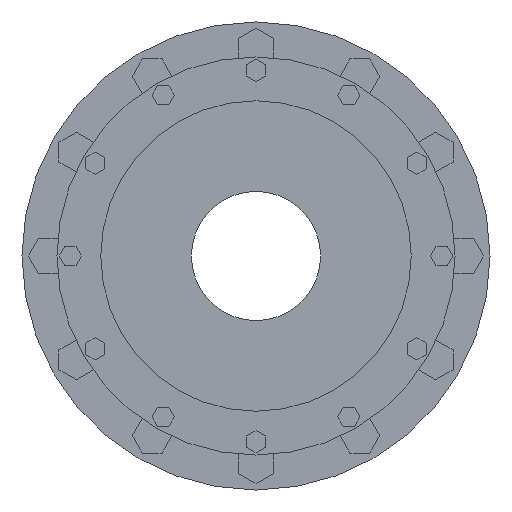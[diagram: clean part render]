
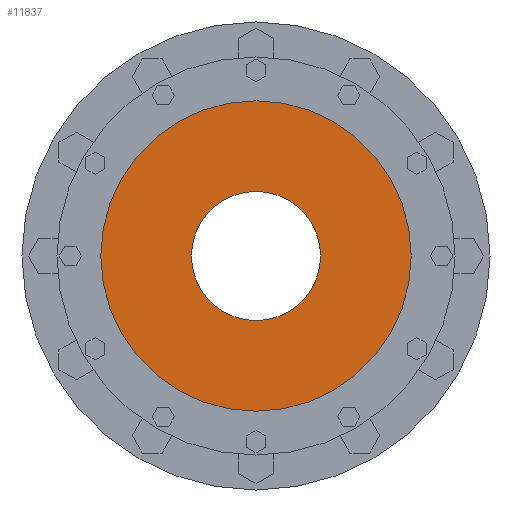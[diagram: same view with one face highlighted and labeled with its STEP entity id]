
A CAD part, left-side view. The second image highlights one B-rep face of the part: STEP entity #11837.
In plain terms, the highlighted planar face has unit normal (-1, 0, 0) as drawn and (1, 0, 0) by its records, which use the part's own axes.
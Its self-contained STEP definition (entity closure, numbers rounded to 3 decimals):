
#11661=CARTESIAN_POINT('',(-6.,0.,0.));
#11662=DIRECTION('',(1.,0.,0.));
#11663=DIRECTION('',(0.,1.,0.));
#11664=AXIS2_PLACEMENT_3D('',#11661,#11662,#11663);
#11671=CARTESIAN_POINT('',(-6.,0.,0.));
#11672=DIRECTION('',(-1.,0.,0.));
#11673=DIRECTION('',(0.,1.,0.));
#11674=AXIS2_PLACEMENT_3D('',#11671,#11672,#11673);
#11676=CARTESIAN_POINT('',(-6.,0.,0.));
#11677=DIRECTION('',(1.,0.,0.));
#11678=DIRECTION('',(0.,1.,0.));
#11679=AXIS2_PLACEMENT_3D('',#11676,#11677,#11678);
#11755=CARTESIAN_POINT('',(-6.,0.,0.));
#11756=DIRECTION('',(1.,0.,0.));
#11757=DIRECTION('',(0.,-1.,0.));
#11758=AXIS2_PLACEMENT_3D('',#11755,#11756,#11757);
#11782=CARTESIAN_POINT('',(-6.,144.25,0.));
#11784=VERTEX_POINT('',#11782);
#11786=CARTESIAN_POINT('',(-6.,-144.25,0.));
#11788=VERTEX_POINT('',#11786);
#11793=CARTESIAN_POINT('',(-6.,60.,0.));
#11794=CARTESIAN_POINT('',(-6.,-60.,0.));
#11795=VERTEX_POINT('',#11793);
#11796=VERTEX_POINT('',#11794);
#11821=CARTESIAN_POINT('',(-6.,0.,0.));
#11822=DIRECTION('',(1.,0.,0.));
#11823=DIRECTION('',(0.,-1.,0.));
#11824=AXIS2_PLACEMENT_3D('',#11821,#11822,#11823);
#11825=PLANE('',#11824);
#11827=ORIENTED_EDGE('',*,*,#11826,.T.);
#11829=ORIENTED_EDGE('',*,*,#11828,.F.);
#11830=EDGE_LOOP('',(#11827,#11829));
#11831=FACE_OUTER_BOUND('',#11830,.F.);
#11832=ORIENTED_EDGE('',*,*,#11810,.T.);
#11834=ORIENTED_EDGE('',*,*,#11833,.T.);
#11835=EDGE_LOOP('',(#11832,#11834));
#11836=FACE_BOUND('',#11835,.F.);
#11837=ADVANCED_FACE('',(#11831,#11836),#11825,.T.);
#11665=CIRCLE('',#11664,60.);
#11675=CIRCLE('',#11674,144.25);
#11680=CIRCLE('',#11679,144.25);
#11759=CIRCLE('',#11758,60.);
#11810=EDGE_CURVE('',#11795,#11796,#11665,.T.);
#11826=EDGE_CURVE('',#11784,#11788,#11675,.T.);
#11828=EDGE_CURVE('',#11784,#11788,#11680,.T.);
#11833=EDGE_CURVE('',#11796,#11795,#11759,.T.);
